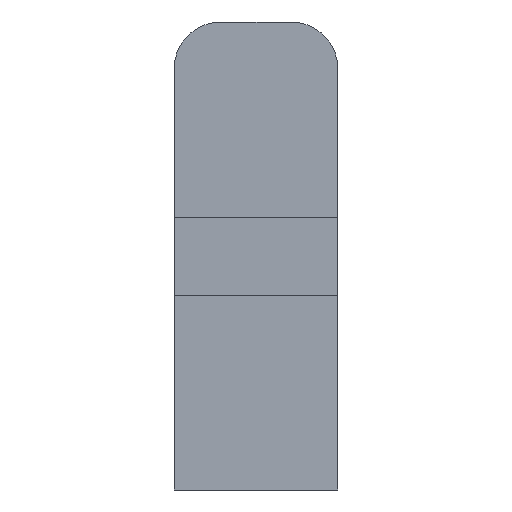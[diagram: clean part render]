
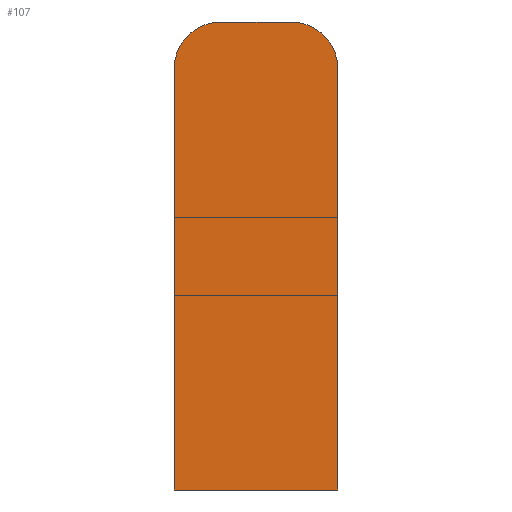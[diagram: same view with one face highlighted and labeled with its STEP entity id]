
A CAD part, front view. The second image highlights one B-rep face of the part: STEP entity #107.
In plain terms, the highlighted planar face has unit normal (0, -1, 0).
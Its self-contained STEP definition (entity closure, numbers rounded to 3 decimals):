
#19 = AXIS2_PLACEMENT_3D ( 'NONE', #530, #536, #537 ) ;
#36 = EDGE_CURVE ( 'NONE', #368, #370, #262, .T. ) ;
#44 = EDGE_CURVE ( 'NONE', #364, #368, #272, .T. ) ;
#45 = EDGE_CURVE ( 'NONE', #379, #369, #266, .T. ) ;
#63 = EDGE_CURVE ( 'NONE', #377, #379, #326, .T. ) ;
#65 = EDGE_CURVE ( 'NONE', #370, #377, #153, .T. ) ;
#84 = AXIS2_PLACEMENT_3D ( 'NONE', #351, #415, #421 ) ;
#86 = EDGE_CURVE ( 'NONE', #369, #364, #309, .T. ) ;
#90 = AXIS2_PLACEMENT_3D ( 'NONE', #446, #456, #457 ) ;
#107 = ADVANCED_FACE ( 'NONE', ( #288 ), #527, .F. ) ;
#122 = ORIENTED_EDGE ( 'NONE', *, *, #65, .T. ) ;
#153 = CIRCLE ( 'NONE', #90, 3. ) ;
#157 = ORIENTED_EDGE ( 'NONE', *, *, #36, .T. ) ;
#171 = ORIENTED_EDGE ( 'NONE', *, *, #44, .T. ) ;
#180 = ORIENTED_EDGE ( 'NONE', *, *, #63, .T. ) ;
#189 = ORIENTED_EDGE ( 'NONE', *, *, #45, .T. ) ;
#190 = ORIENTED_EDGE ( 'NONE', *, *, #86, .T. ) ;
#234 = EDGE_LOOP ( 'NONE', ( #190, #171, #157, #122, #180, #189 ) ) ;
#251 = VECTOR ( 'NONE', #483, 1000. ) ;
#262 = LINE ( 'NONE', #413, #263 ) ;
#263 = VECTOR ( 'NONE', #417, 1000. ) ;
#266 = LINE ( 'NONE', #424, #267 ) ;
#267 = VECTOR ( 'NONE', #420, 1000. ) ;
#272 = CIRCLE ( 'NONE', #84, 3. ) ;
#288 = FACE_OUTER_BOUND ( 'NONE', #234, .T. ) ;
#309 = LINE ( 'NONE', #482, #251 ) ;
#326 = LINE ( 'NONE', #454, #335 ) ;
#335 = VECTOR ( 'NONE', #455, 1000. ) ;
#351 = CARTESIAN_POINT ( 'NONE',  ( 2.25, 0., 10.5 ) ) ;
#364 = VERTEX_POINT ( 'NONE', #570 ) ;
#368 = VERTEX_POINT ( 'NONE', #574 ) ;
#369 = VERTEX_POINT ( 'NONE', #575 ) ;
#370 = VERTEX_POINT ( 'NONE', #576 ) ;
#377 = VERTEX_POINT ( 'NONE', #583 ) ;
#379 = VERTEX_POINT ( 'NONE', #585 ) ;
#413 = CARTESIAN_POINT ( 'NONE',  ( 2.25, 0., 13.5 ) ) ;
#415 = DIRECTION ( 'NONE',  ( 0., -1., 0. ) ) ;
#417 = DIRECTION ( 'NONE',  ( -1., 0., 0. ) ) ;
#420 = DIRECTION ( 'NONE',  ( 1., 0., 0. ) ) ;
#421 = DIRECTION ( 'NONE',  ( -1., 0., 0. ) ) ;
#424 = CARTESIAN_POINT ( 'NONE',  ( 5.25, 0., -16.5 ) ) ;
#446 = CARTESIAN_POINT ( 'NONE',  ( -2.25, 0., 10.5 ) ) ;
#454 = CARTESIAN_POINT ( 'NONE',  ( -5.25, 0., -16.5 ) ) ;
#455 = DIRECTION ( 'NONE',  ( 0., 0., -1. ) ) ;
#456 = DIRECTION ( 'NONE',  ( 0., -1., 0. ) ) ;
#457 = DIRECTION ( 'NONE',  ( -1., 0., 0. ) ) ;
#482 = CARTESIAN_POINT ( 'NONE',  ( 5.25, 0., -16.5 ) ) ;
#483 = DIRECTION ( 'NONE',  ( 0., 0., 1. ) ) ;
#527 = PLANE ( 'NONE',  #19 ) ;
#530 = CARTESIAN_POINT ( 'NONE',  ( 0., 0., -1.5 ) ) ;
#536 = DIRECTION ( 'NONE',  ( 0., 1., 0. ) ) ;
#537 = DIRECTION ( 'NONE',  ( -1., 0., 0. ) ) ;
#570 = CARTESIAN_POINT ( 'NONE',  ( 5.25, 0., 10.5 ) ) ;
#574 = CARTESIAN_POINT ( 'NONE',  ( 2.25, 0., 13.5 ) ) ;
#575 = CARTESIAN_POINT ( 'NONE',  ( 5.25, 0., -16.5 ) ) ;
#576 = CARTESIAN_POINT ( 'NONE',  ( -2.25, 0., 13.5 ) ) ;
#583 = CARTESIAN_POINT ( 'NONE',  ( -5.25, 0., 10.5 ) ) ;
#585 = CARTESIAN_POINT ( 'NONE',  ( -5.25, 0., -16.5 ) ) ;
